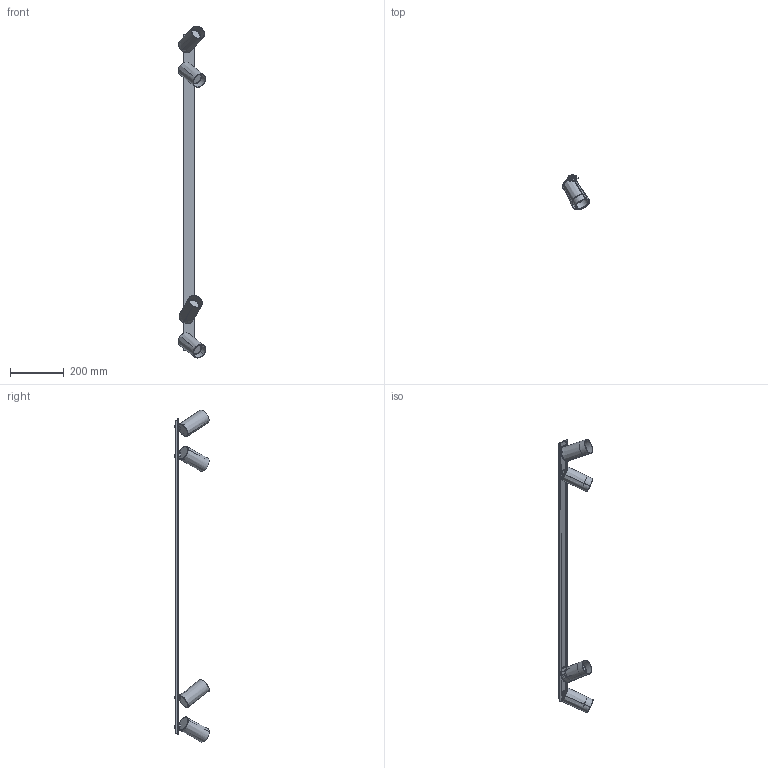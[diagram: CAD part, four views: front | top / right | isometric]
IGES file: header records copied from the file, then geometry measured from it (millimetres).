
Start section: SolidWorks IGES file using analytic representation for surfaces
Global section: file name: Z:\Modele 3D_WWW\_KOLEKCJE_WWW\MONO\MONO-SURFACE\MONO-SURFACE-IV-BRASS-7747\MONO-SURFACE-IV-BRASS-7747.IGS; native system: SolidWorks 2021; preprocessor: SolidWorks 2021; author: gabriela.tworek; date: 210818.100924; units: millimetre
Bounding box: 102.15 x 128.74 x 1238.38 mm (x, y, z)
Surface area: 433326.4 mm2 (no closed solid volume)
Topology: 0 solids, 0 shells, 1687 faces, 20414 edges, 20366 vertices
Faces by surface type: bspline 965, revolution 722
